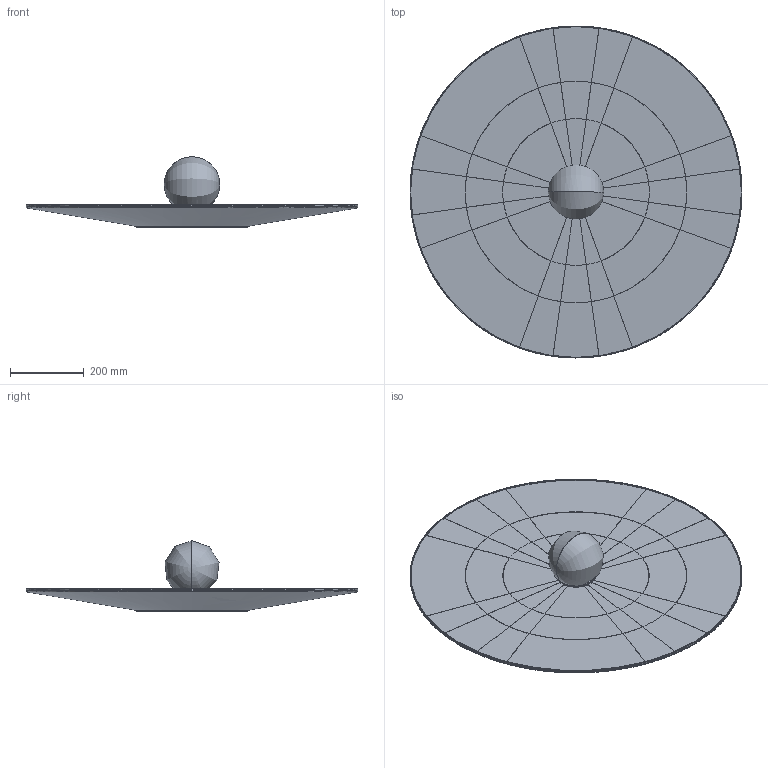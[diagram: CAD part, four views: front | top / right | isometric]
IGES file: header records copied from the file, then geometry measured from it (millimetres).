
Start section: SolidWorks IGES file using analytic representation for surfaces
Global section: file name: \\192.168.0.53\Reserch Development\SITO WEB\2024\File 2D 3D\Prodotti\Caricamenti\Cartelle non compresse\Caleide Eto\De Castelli-3D-Caleide Eto 90.IGS; native system: SolidWorks 2025; preprocessor: SolidWorks 2025; author: lauraa; date: 260514.102757; units: millimetre
Bounding box: 900 x 900 x 190.53 mm (x, y, z)
Surface area: 1481867.9 mm2 (no closed solid volume)
Topology: 0 solids, 0 shells, 234 faces, 3499 edges, 3498 vertices
Faces by surface type: bspline 144, revolution 90
